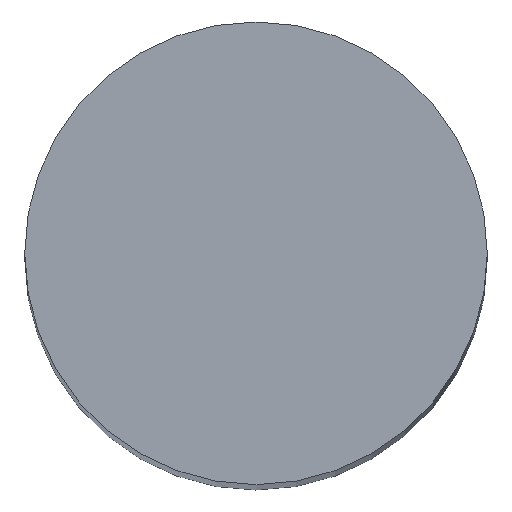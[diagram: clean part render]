
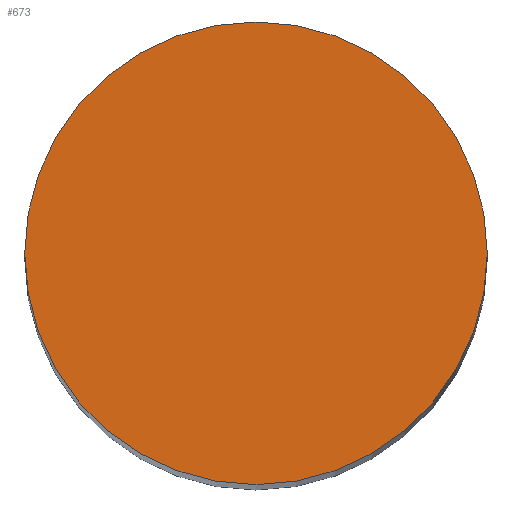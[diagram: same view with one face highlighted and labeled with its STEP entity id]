
A CAD part, top view. The second image highlights one B-rep face of the part: STEP entity #673.
In plain terms, the highlighted planar face has unit normal (0, 0, 1).
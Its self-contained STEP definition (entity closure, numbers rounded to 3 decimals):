
#60=CIRCLE('',#739,15.);
#109=FACE_OUTER_BOUND('',#153,.T.);
#153=EDGE_LOOP('',(#607));
#332=VERTEX_POINT('',#1231);
#424=EDGE_CURVE('',#332,#332,#60,.T.);
#607=ORIENTED_EDGE('',*,*,#424,.T.);
#635=PLANE('',#741);
#673=ADVANCED_FACE('',(#109),#635,.T.);
#739=AXIS2_PLACEMENT_3D('',#1232,#915,#916);
#741=AXIS2_PLACEMENT_3D('',#1234,#919,#920);
#915=DIRECTION('center_axis',(0.,0.,1.));
#916=DIRECTION('ref_axis',(1.,0.,0.));
#919=DIRECTION('center_axis',(0.,0.,1.));
#920=DIRECTION('ref_axis',(1.,0.,0.));
#1231=CARTESIAN_POINT('',(15.,0.,200.));
#1232=CARTESIAN_POINT('Origin',(0.,0.,200.));
#1234=CARTESIAN_POINT('Origin',(0.,0.,
200.));
